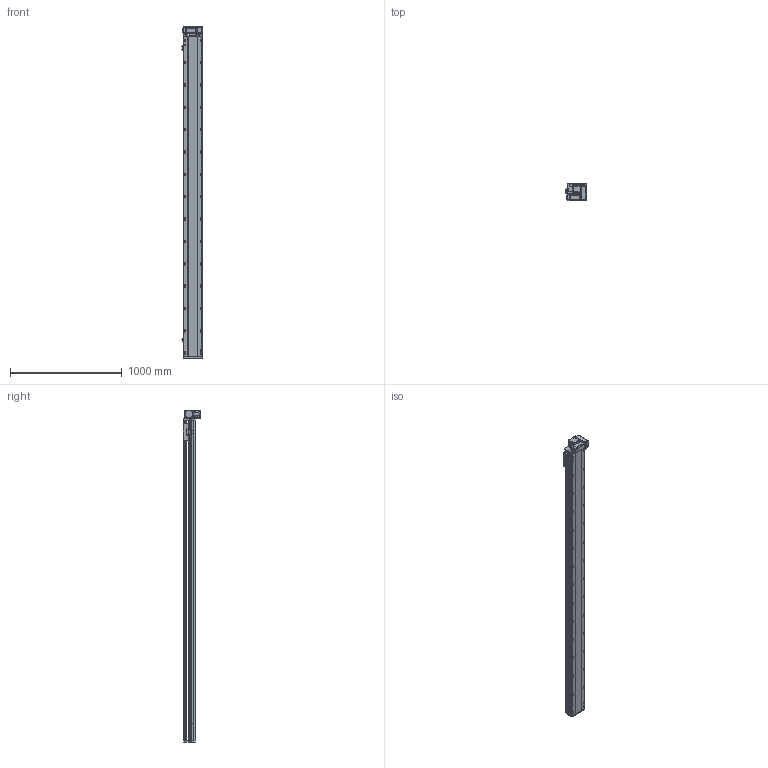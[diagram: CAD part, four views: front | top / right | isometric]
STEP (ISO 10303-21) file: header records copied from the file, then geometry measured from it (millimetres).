
FILE_DESCRIPTION (( 'STEP AP214' ), '1' );
FILE_NAME ('RTB17S-XX-2600-RM-M40-C4.STEP', '2025-12-11T08:31:54', ( '' ), ( '' ), 'SwSTEP 2.0', 'SolidWorks 2018', '' );
FILE_SCHEMA (( 'AUTOMOTIVE_DESIGN' ));
Length unit declared in the file: millimetre
Products named in the file (14): RTB17S-L-004佪裝蹟譫蟀諉釱^RTB17S-XX-XX-RM-M40-C4; OMRON EE-SX672 传感器^RTB17S-XX-XX-RM-M40-C4; RTB17-R-011菁釱^RTB17S-XX-XX-RM-M40-C4; RTB17S-L-001耜醱啣^RTB17S-XX-XX-RM-M40-C4; RTB14-L-018P^RTB17S-RM-々湍釱蚾饜-400W_RTB17S-XX-XX-RM-M40-C4; RTB17S-L-014-T20--々湍釱^RTB17S-RM-々湍釱蚾饜-400W_RTB17S-XX-XX-RM-M40-C4; RTB17S-L-007奻裔^RTB17S-XX-XX-RM-M40-C4; RTB17S-RM-々湍釱蚾饜-400W^RTB17S-XX-XX-RM-M40-C4; RTB14-L-008-M20--萇儂啣^RTB17S-RM-々湍釱蚾饜-400W_RTB17S-XX-XX-RM-M40-C4; 400W侜督萇儂^RTB17S-XX-XX-RM-M40-C4; RTB14-L-005P--轴承塑胶压盖^RTB17S-RM-皮带座装配-400W_RTB17S-XX-XX-RM-M40-C4; RTH13-BL-012覜茼え俋离^RTB17S-XX-XX-RM-M40-C4; RTB17S-XX-2600-RM-M40-C4; RTB14-L-017P^RTB17S-RM-々湍釱蚾饜-400W_RTB17S-XX-XX-RM-M40-C4
Assembly tree (16 placements, depth 3):
  RTB17S-XX-2600-RM-M40-C4
    RTB17-R-011菁釱^RTB17S-XX-XX-RM-M40-C4
    RTB17S-L-007奻裔^RTB17S-XX-XX-RM-M40-C4
    OMRON EE-SX672 传感器^RTB17S-XX-XX-RM-M40-C4  x3
    RTB17S-L-001耜醱啣^RTB17S-XX-XX-RM-M40-C4
    400W侜督萇儂^RTB17S-XX-XX-RM-M40-C4
    RTB17S-L-004佪裝蹟譫蟀諉釱^RTB17S-XX-XX-RM-M40-C4
    RTH13-BL-012覜茼え俋离^RTB17S-XX-XX-RM-M40-C4
    RTB17S-RM-々湍釱蚾饜-400W^RTB17S-XX-XX-RM-M40-C4
      RTB17S-L-014-T20--々湍釱^RTB17S-RM-々湍釱蚾饜-400W_RTB17S-XX-XX-RM-M40-C4
      RTB14-L-005P--轴承塑胶压盖^RTB17S-RM-皮带座装配-400W_RTB17S-XX-XX-RM-M40-C4
      RTB14-L-008-M20--萇儂啣^RTB17S-RM-々湍釱蚾饜-400W_RTB17S-XX-XX-RM-M40-C4
      RTB14-L-017P^RTB17S-RM-々湍釱蚾饜-400W_RTB17S-XX-XX-RM-M40-C4  x2
      RTB14-L-018P^RTB17S-RM-々湍釱蚾饜-400W_RTB17S-XX-XX-RM-M40-C4
Bounding box: 183.5 x 156.5 x 2972.5 mm (x, y, z)
Volume: 25424834.4 mm3; surface area: 2920031.7 mm2
Topology: 15 solids, 15 shells, 2333 faces, 6519 edges, 4257 vertices
Faces by surface type: plane 1084, cylinder 801, bspline 301, cone 139, torus 8
Entity records: 68777 total; most frequent: CARTESIAN_POINT 19524, ORIENTED_EDGE 9882, DIRECTION 9116, EDGE_CURVE 4941, VERTEX_POINT 3245, AXIS2_PLACEMENT_3D 3175, VECTOR 2766, LINE 2766
